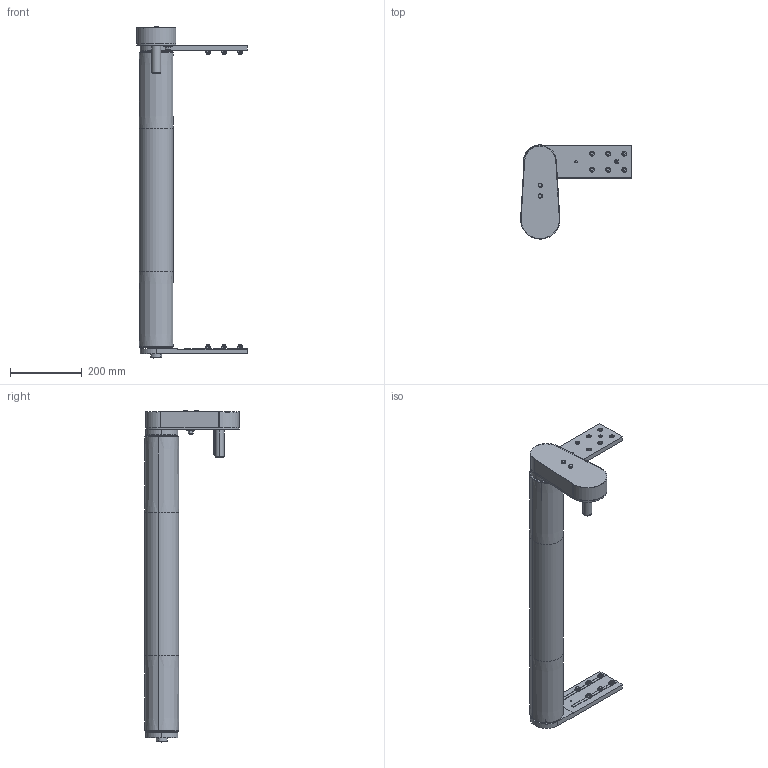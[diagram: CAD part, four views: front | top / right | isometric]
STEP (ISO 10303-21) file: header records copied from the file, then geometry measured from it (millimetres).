
FILE_DESCRIPTION (( 'STEP AP203' ), '1' );
FILE_NAME ('084.095.KTB.49.800.STEP', '2019-07-30T07:43:50', ( '' ), ( '' ), 'SwSTEP 2.0', 'SolidWorks 2018', '' );
FILE_SCHEMA (( 'CONFIG_CONTROL_DESIGN' ));
Length unit declared in the file: millimetre
Products named in the file (28): 084.301.000 VITI ALUSIC_084.301.003; 084.812.003; 084.808.003_084.808.003; CHIAVETTE_A 8x7x25 UNI 6604-69; 084.821.003; 084.810.003; DADI ESAGONALI AUTOBLOCCANTI UNI 7473_M8 UNI 7473; 084.809.003; 084.302.000 DADI ALUSIC 13x13_084.302.004; Circlip DIN 471 - 8 x 0.8_Circlip DIN 471 - 8 x 0.8; 084.802.034_084.802.034; RONDELLE FASCIA LARGA UNI 6593_8.4x24 UNI 6593; ISO 4018 - M8 x 20-NS_ISO 4018 - M8 x 20-NS; CUSCINETTI A SFERE_608-2RS; 084.809.002; ISO 4018 - M6 x 50-NS_ISO 4018 - M6 x 50-NS; 084.813.005; CHIAVETTE_A 8x7x70 UNI 6604-69; 084.810.008; 084.816.112_084.816.107<A macchina>; ANELLI ELASTICI PER ESTERNI UNI 7435-75_8 UNI 7435; 084.808.002_084.808.002; Specchiatura084.302.000 DADI ALUSIC 13x13_084.302.004; 084.810.006; 084.095.KTB.49.800; 084.802.019_084.802.019; 084.821.002; 084.813.002
Assembly tree (59 placements, depth 3):
  084.095.KTB.49.800
    084.808.003_084.808.003
    084.810.003  x2
    084.808.002_084.808.002
    084.802.034_084.802.034
    084.802.019_084.802.019
    084.812.003
    084.813.002
    084.809.003
    084.821.002  x2
    084.809.002
    084.813.005
    084.816.112_084.816.107<A macchina>
    084.810.006
      084.810.008
      CUSCINETTI A SFERE_608-2RS  x3
      Circlip DIN 471 - 8 x 0.8_Circlip DIN 471 - 8 x 0.8
      RONDELLE FASCIA LARGA UNI 6593_8.4x24 UNI 6593
      DADI ESAGONALI AUTOBLOCCANTI UNI 7473_M8 UNI 7473
    084.821.003
    084.302.000 DADI ALUSIC 13x13_084.302.004  x6
    084.301.000 VITI ALUSIC_084.301.003  x12
    Specchiatura084.302.000 DADI ALUSIC 13x13_084.302.004  x6
    CHIAVETTE_A 8x7x70 UNI 6604-69
    CHIAVETTE_A 8x7x25 UNI 6604-69  x3
    ANELLI ELASTICI PER ESTERNI UNI 7435-75_8 UNI 7435  x2
    ISO 4018 - M6 x 50-NS_ISO 4018 - M6 x 50-NS  x2
    ISO 4018 - M8 x 20-NS_ISO 4018 - M8 x 20-NS  x4
Bounding box: 310 x 263.99 x 927.88 mm (x, y, z)
Volume: 2740861 mm3; surface area: 1276154.4 mm2
Topology: 63 solids, 64 shells, 2899 faces, 7544 edges, 4843 vertices
Faces by surface type: cylinder 1000, plane 916, cone 804, torus 122, bspline 48, sphere 9
Entity records: 56026 total; most frequent: CARTESIAN_POINT 10560, DIRECTION 9176, ORIENTED_EDGE 8554, EDGE_CURVE 4277, AXIS2_PLACEMENT_3D 3482, VERTEX_POINT 2766, VECTOR 2212, LINE 2212
